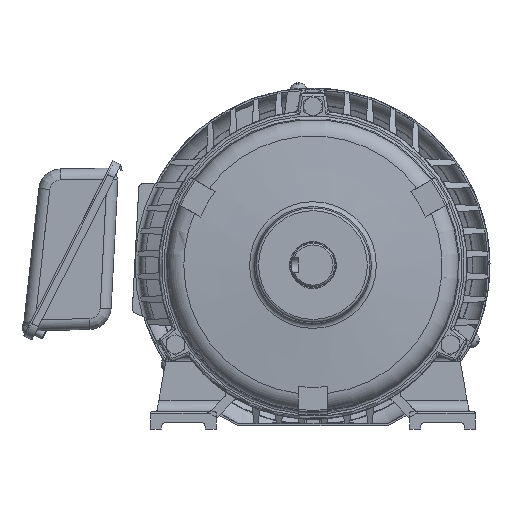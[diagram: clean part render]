
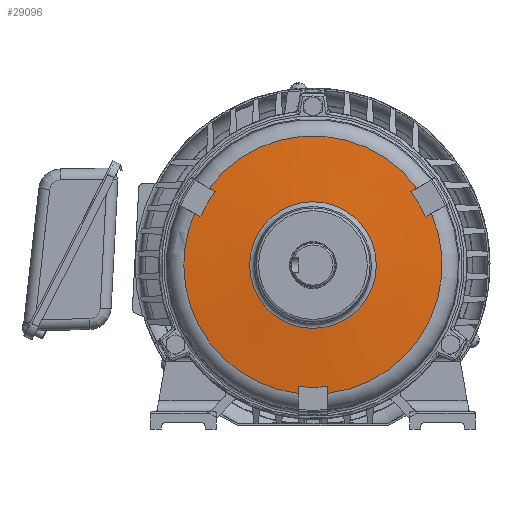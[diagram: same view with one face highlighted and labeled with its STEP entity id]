
A CAD part, front view. The second image highlights one B-rep face of the part: STEP entity #29096.
In plain terms, the highlighted conical face has half-angle 85.03 degrees and reference radius 78.5 mm.
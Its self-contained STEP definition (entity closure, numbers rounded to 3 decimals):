
#471=CONICAL_SURFACE('',#31103,78.5,1.484);
#1096=CIRCLE('',#31104,34.709);
#1097=CIRCLE('',#31105,70.777);
#1098=CIRCLE('',#31106,67.);
#1099=CIRCLE('',#31107,70.777);
#1100=CIRCLE('',#31108,67.);
#1101=CIRCLE('',#31109,70.777);
#1102=CIRCLE('',#31110,67.);
#2967=B_SPLINE_CURVE_WITH_KNOTS('',3,(#47275,#47276,#47277,#47278),
 .UNSPECIFIED.,.F.,.F.,(4,4),(0.,1.),.PIECEWISE_BEZIER_KNOTS.);
#2968=B_SPLINE_CURVE_WITH_KNOTS('',3,(#47283,#47284,#47285,#47286),
 .UNSPECIFIED.,.F.,.F.,(4,4),(0.,1.),.PIECEWISE_BEZIER_KNOTS.);
#2969=B_SPLINE_CURVE_WITH_KNOTS('',3,(#47290,#47291,#47292,#47293),
 .UNSPECIFIED.,.F.,.F.,(4,4),(0.,1.),.PIECEWISE_BEZIER_KNOTS.);
#2970=B_SPLINE_CURVE_WITH_KNOTS('',3,(#47297,#47298,#47299,#47300),
 .UNSPECIFIED.,.F.,.F.,(4,4),(0.,1.),.PIECEWISE_BEZIER_KNOTS.);
#2971=B_SPLINE_CURVE_WITH_KNOTS('',3,(#47304,#47305,#47306,#47307),
 .UNSPECIFIED.,.F.,.F.,(4,4),(0.,1.),.PIECEWISE_BEZIER_KNOTS.);
#2972=B_SPLINE_CURVE_WITH_KNOTS('',3,(#47311,#47312,#47313,#47314),
 .UNSPECIFIED.,.F.,.F.,(4,4),(0.,1.),.PIECEWISE_BEZIER_KNOTS.);
#5747=ORIENTED_EDGE('',*,*,#12165,.T.);
#5748=ORIENTED_EDGE('',*,*,#12166,.F.);
#5749=ORIENTED_EDGE('',*,*,#12167,.T.);
#5750=ORIENTED_EDGE('',*,*,#12168,.F.);
#5751=ORIENTED_EDGE('',*,*,#12169,.F.);
#5752=ORIENTED_EDGE('',*,*,#12170,.F.);
#5753=ORIENTED_EDGE('',*,*,#12171,.T.);
#5754=ORIENTED_EDGE('',*,*,#12172,.F.);
#5755=ORIENTED_EDGE('',*,*,#12173,.F.);
#5756=ORIENTED_EDGE('',*,*,#12174,.F.);
#5757=ORIENTED_EDGE('',*,*,#12175,.T.);
#5758=ORIENTED_EDGE('',*,*,#12176,.F.);
#5759=ORIENTED_EDGE('',*,*,#12177,.F.);
#12165=EDGE_CURVE('',#15583,#15583,#1096,.T.);
#12166=EDGE_CURVE('',#15584,#15585,#2967,.T.);
#12167=EDGE_CURVE('',#15584,#15586,#1097,.T.);
#12168=EDGE_CURVE('',#15587,#15586,#2968,.T.);
#12169=EDGE_CURVE('',#15588,#15587,#1098,.T.);
#12170=EDGE_CURVE('',#15589,#15588,#2969,.T.);
#12171=EDGE_CURVE('',#15589,#15590,#1099,.T.);
#12172=EDGE_CURVE('',#15591,#15590,#2970,.T.);
#12173=EDGE_CURVE('',#15592,#15591,#1100,.T.);
#12174=EDGE_CURVE('',#15593,#15592,#2971,.T.);
#12175=EDGE_CURVE('',#15593,#15594,#1101,.T.);
#12176=EDGE_CURVE('',#15595,#15594,#2972,.T.);
#12177=EDGE_CURVE('',#15585,#15595,#1102,.T.);
#15583=VERTEX_POINT('',#47274);
#15584=VERTEX_POINT('',#47279);
#15585=VERTEX_POINT('',#47280);
#15586=VERTEX_POINT('',#47282);
#15587=VERTEX_POINT('',#47287);
#15588=VERTEX_POINT('',#47289);
#15589=VERTEX_POINT('',#47294);
#15590=VERTEX_POINT('',#47296);
#15591=VERTEX_POINT('',#47301);
#15592=VERTEX_POINT('',#47303);
#15593=VERTEX_POINT('',#47308);
#15594=VERTEX_POINT('',#47310);
#15595=VERTEX_POINT('',#47315);
#20815=EDGE_LOOP('',(#5747));
#20816=EDGE_LOOP('',(#5748,#5749,#5750,#5751,#5752,#5753,#5754,#5755,#5756,
#5757,#5758,#5759));
#22657=FACE_BOUND('',#20815,.T.);
#22658=FACE_BOUND('',#20816,.T.);
#29096=ADVANCED_FACE('',(#22657,#22658),#471,.T.);
#31103=AXIS2_PLACEMENT_3D('',#47272,#35450,#35451);
#31104=AXIS2_PLACEMENT_3D('',#47273,#35452,#35453);
#31105=AXIS2_PLACEMENT_3D('',#47281,#35454,#35455);
#31106=AXIS2_PLACEMENT_3D('',#47288,#35456,#35457);
#31107=AXIS2_PLACEMENT_3D('',#47295,#35458,#35459);
#31108=AXIS2_PLACEMENT_3D('',#47302,#35460,#35461);
#31109=AXIS2_PLACEMENT_3D('',#47309,#35462,#35463);
#31110=AXIS2_PLACEMENT_3D('',#47316,#35464,#35465);
#35450=DIRECTION('',(0.,1.,0.));
#35451=DIRECTION('',(-1.,0.,0.));
#35452=DIRECTION('',(0.,1.,0.));
#35453=DIRECTION('',(-1.,0.,0.));
#35454=DIRECTION('',(0.,-1.,0.));
#35455=DIRECTION('',(1.,0.,0.));
#35456=DIRECTION('',(0.,1.,0.));
#35457=DIRECTION('',(-1.,0.,0.));
#35458=DIRECTION('',(0.,-1.,0.));
#35459=DIRECTION('',(1.,0.,0.));
#35460=DIRECTION('',(0.,1.,0.));
#35461=DIRECTION('',(-1.,0.,0.));
#35462=DIRECTION('',(0.,-1.,0.));
#35463=DIRECTION('',(1.,0.,0.));
#35464=DIRECTION('',(0.,1.,0.));
#35465=DIRECTION('',(-1.,0.,0.));
#47272=CARTESIAN_POINT('',(0.,11.,0.));
#47273=CARTESIAN_POINT('',(0.,7.192,0.));
#47274=CARTESIAN_POINT('',(-34.709,7.192,0.));
#47275=CARTESIAN_POINT('',(8.,10.328,-70.323));
#47276=CARTESIAN_POINT('',(8.,10.219,-69.056));
#47277=CARTESIAN_POINT('',(8.,10.109,-67.788));
#47278=CARTESIAN_POINT('',(8.,10.,-66.521));
#47279=CARTESIAN_POINT('',(8.,10.328,-70.323));
#47280=CARTESIAN_POINT('',(8.,10.,-66.521));
#47281=CARTESIAN_POINT('',(0.,10.328,0.));
#47282=CARTESIAN_POINT('',(64.902,10.328,28.233));
#47283=CARTESIAN_POINT('',(61.609,10.,26.332));
#47284=CARTESIAN_POINT('',(62.706,10.109,26.966));
#47285=CARTESIAN_POINT('',(63.804,10.219,27.6));
#47286=CARTESIAN_POINT('',(64.902,10.328,28.233));
#47287=CARTESIAN_POINT('',(61.609,10.,26.332));
#47288=CARTESIAN_POINT('',(0.,10.,0.));
#47289=CARTESIAN_POINT('',(53.609,10.,40.189));
#47290=CARTESIAN_POINT('',(56.902,10.328,42.09));
#47291=CARTESIAN_POINT('',(55.804,10.219,41.456));
#47292=CARTESIAN_POINT('',(54.706,10.109,40.822));
#47293=CARTESIAN_POINT('',(53.609,10.,40.189));
#47294=CARTESIAN_POINT('',(56.902,10.328,42.09));
#47295=CARTESIAN_POINT('',(0.,10.328,0.));
#47296=CARTESIAN_POINT('',(-56.902,10.328,42.09));
#47297=CARTESIAN_POINT('',(-53.609,10.,40.189));
#47298=CARTESIAN_POINT('',(-54.706,10.109,40.822));
#47299=CARTESIAN_POINT('',(-55.804,10.219,41.456));
#47300=CARTESIAN_POINT('',(-56.902,10.328,42.09));
#47301=CARTESIAN_POINT('',(-53.609,10.,40.189));
#47302=CARTESIAN_POINT('',(0.,10.,0.));
#47303=CARTESIAN_POINT('',(-61.609,10.,26.332));
#47304=CARTESIAN_POINT('',(-64.902,10.328,28.233));
#47305=CARTESIAN_POINT('',(-63.804,10.219,27.6));
#47306=CARTESIAN_POINT('',(-62.706,10.109,26.966));
#47307=CARTESIAN_POINT('',(-61.609,10.,26.332));
#47308=CARTESIAN_POINT('',(-64.902,10.328,28.233));
#47309=CARTESIAN_POINT('',(0.,10.328,0.));
#47310=CARTESIAN_POINT('',(-8.,10.328,-70.323));
#47311=CARTESIAN_POINT('',(-8.,10.,-66.521));
#47312=CARTESIAN_POINT('',(-8.,10.109,-67.788));
#47313=CARTESIAN_POINT('',(-8.,10.219,-69.056));
#47314=CARTESIAN_POINT('',(-8.,10.328,-70.323));
#47315=CARTESIAN_POINT('',(-8.,10.,-66.521));
#47316=CARTESIAN_POINT('',(0.,10.,0.));
